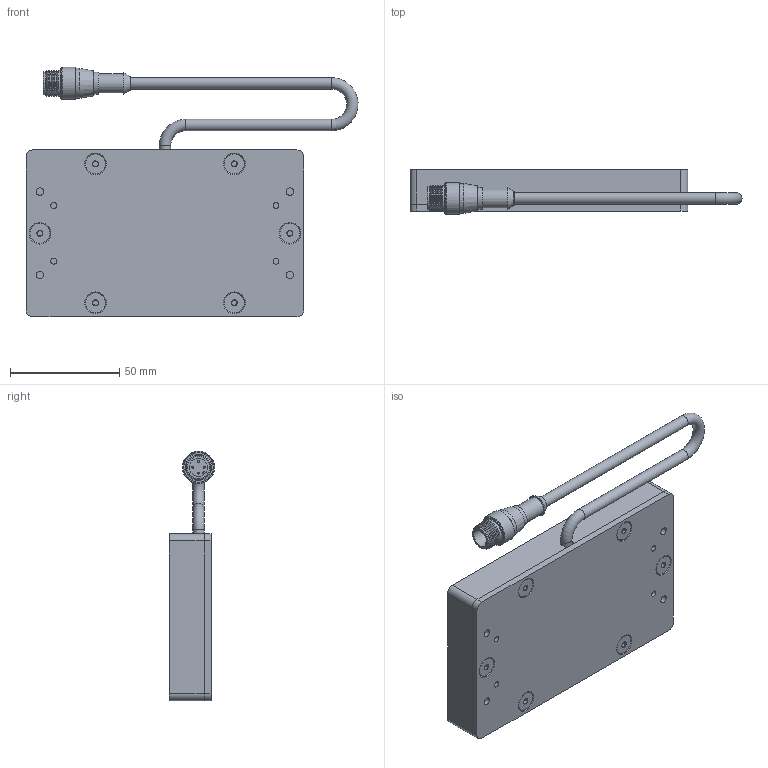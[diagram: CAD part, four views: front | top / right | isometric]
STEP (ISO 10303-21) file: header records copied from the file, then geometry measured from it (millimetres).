
FILE_DESCRIPTION (( 'STEP AP214' ), '1' );
FILE_NAME ('SBL24-XXX-WDC.STEP', '2026-04-17T16:34:07', ( '' ), ( '' ), 'SwSTEP 2.0', 'SolidWorks 2025', '' );
FILE_SCHEMA (( 'AUTOMOTIVE_DESIGN' ));
Length unit declared in the file: inch
Products named in the file (9): SC Pigtail Complete 18_4pin; Hex Standoff X.X x 8-32_0.375; MC Pigtail 24; BackPlate BLYYXX_0204; 8-32 x 0.375 FHCS (92210A192)_92210A192; M12 Connector 4,5 and 8 pin; SBL24-XXX-WDC; WD-SBLYYXX_2x4; Housing SBL24
Assembly tree (18 placements, depth 3):
  SBL24-XXX-WDC
    Housing SBL24
    BackPlate BLYYXX_0204
    SC Pigtail Complete 18_4pin
      MC Pigtail 24
      M12 Connector 4,5 and 8 pin
    WD-SBLYYXX_2x4
    Hex Standoff X.X x 8-32_0.375  x6
    8-32 x 0.375 FHCS (92210A192)_92210A192  x6
Bounding box: 151.79 x 20.61 x 113.99 mm (x, y, z)
Volume: 120379.9 mm3; surface area: 71386.5 mm2
Topology: 17 solids, 17 shells, 408 faces, 920 edges, 560 vertices
Faces by surface type: plane 159, cone 109, cylinder 99, torus 19, bspline 18, sphere 4
Full cylindrical faces by diameter (mm): 0.762 x4, 2.705 x4, 3.454 x10, 4.496 x12, 5.207 x3, 6.604 x4, 6.858 x6, 8.382 x1, 8.636 x1, 9.119 x6, 10.16 x1, 10.541 x1, 11.938 x1, 13.716 x2, 14.732 x1
Entity records: 9076 total; most frequent: CARTESIAN_POINT 2965, DIRECTION 1040, ORIENTED_EDGE 784, AXIS2_PLACEMENT_3D 445, EDGE_CURVE 392, EDGE_LOOP 378, VERTEX_POINT 298, FACE_OUTER_BOUND 276
